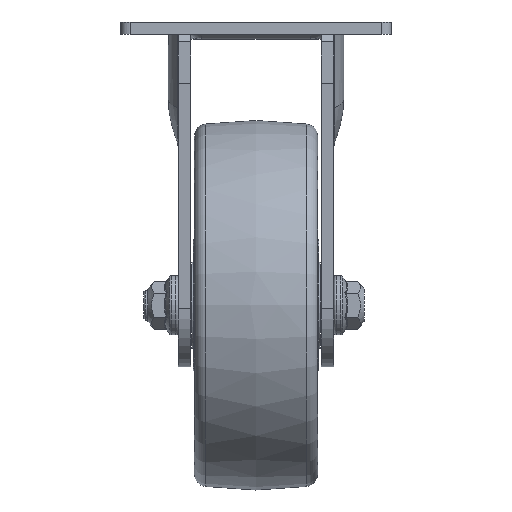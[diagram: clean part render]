
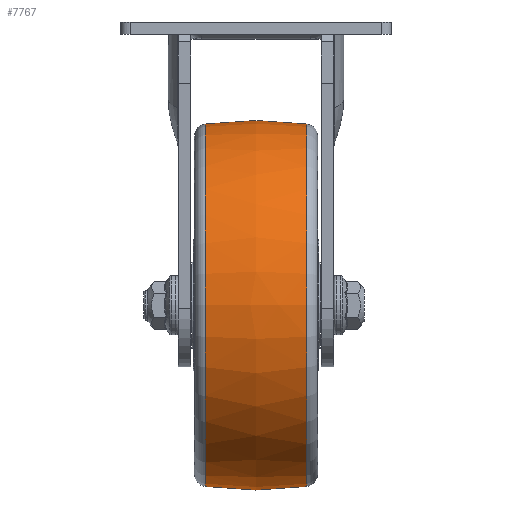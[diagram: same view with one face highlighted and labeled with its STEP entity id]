
A CAD part, left-side view. The second image highlights one B-rep face of the part: STEP entity #7767.
In plain terms, the highlighted free-form (B-spline) face has degree [2, 2] with [3, 9] control points.
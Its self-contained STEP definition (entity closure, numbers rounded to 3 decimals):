
#7695=CARTESIAN_POINT('',(-73.566,20.69,-112.5));
#7696=VERTEX_POINT('',#7695);
#7697=CARTESIAN_POINT('',(0.,20.69,-112.5));
#7698=DIRECTION('',(0.0,1.0,0.0));
#7699=DIRECTION('',(-1.0,0.0,0.0));
#7700=AXIS2_PLACEMENT_3D('',#7697,#7698,#7699);
#7701=CIRCLE('',#7700,73.566);
#7702=EDGE_CURVE('',#7696,#7696,#7701,.T.);
#7718=CARTESIAN_POINT('',(0.,20.69,-186.066));
#7719=CARTESIAN_POINT('',(0.,0.,-188.948));
#7720=CARTESIAN_POINT('',(0.,-20.69,-186.066));
#7721=CARTESIAN_POINT('',(-73.566,20.69,-186.066));
#7722=CARTESIAN_POINT('',(-76.448,0.,-188.948));
#7723=CARTESIAN_POINT('',(-73.566,-20.69,-186.066));
#7724=CARTESIAN_POINT('',(-73.566,20.69,-112.5));
#7725=CARTESIAN_POINT('',(-76.448,0.,-112.5));
#7726=CARTESIAN_POINT('',(-73.566,-20.69,-112.5));
#7727=CARTESIAN_POINT('',(-73.566,20.69,-38.934));
#7728=CARTESIAN_POINT('',(-76.448,0.,-36.052));
#7729=CARTESIAN_POINT('',(-73.566,-20.69,-38.934));
#7730=CARTESIAN_POINT('',(0.,20.69,-38.934));
#7731=CARTESIAN_POINT('',(0.,0.,-36.052));
#7732=CARTESIAN_POINT('',(0.,-20.69,-38.934));
#7733=CARTESIAN_POINT('',(73.566,20.69,-38.934));
#7734=CARTESIAN_POINT('',(76.448,0.,-36.052));
#7735=CARTESIAN_POINT('',(73.566,-20.69,-38.934));
#7736=CARTESIAN_POINT('',(73.566,20.69,-112.5));
#7737=CARTESIAN_POINT('',(76.448,0.,-112.5));
#7738=CARTESIAN_POINT('',(73.566,-20.69,-112.5));
#7739=CARTESIAN_POINT('',(73.566,20.69,-186.066));
#7740=CARTESIAN_POINT('',(76.448,0.,-188.948));
#7741=CARTESIAN_POINT('',(73.566,-20.69,-186.066));
#7742=CARTESIAN_POINT('',(0.,20.69,-186.066));
#7743=CARTESIAN_POINT('',(0.,0.,-188.948));
#7744=CARTESIAN_POINT('',(0.,-20.69,-186.066));
#7752=(BOUNDED_SURFACE()B_SPLINE_SURFACE(2,2,((#7718,#7721,#7724,#7727,#7730,#7733,#7736,#7739,#7742),(#7719,#7722,#7725,#7728,#7731,#7734,#7737,#7740,#7743),(#7720,#7723,#7726,#7729,#7732,#7735,#7738,#7741,#7744)),.UNSPECIFIED.,.F.,.T.,.U.)B_SPLINE_SURFACE_WITH_KNOTS((3,3),(3,2,2,2,3),(-0.138,0.138),(0.0,1.571,3.142,4.712,6.283),.UNSPECIFIED.)GEOMETRIC_REPRESENTATION_ITEM()RATIONAL_B_SPLINE_SURFACE(((1.0,0.707,1.0,0.707,1.0,0.707,1.0,0.707,1.0),(0.99,0.7,0.99,0.7,0.99,0.7,0.99,0.7,0.99),(1.0,0.707,1.0,0.707,1.0,0.707,1.0,0.707,1.0)))REPRESENTATION_ITEM('')SURFACE());
#7753=CARTESIAN_POINT('',(-73.566,-20.69,-112.5));
#7754=VERTEX_POINT('',#7753);
#7755=CARTESIAN_POINT('',(0.,-20.69,-112.5));
#7756=DIRECTION('',(0.0,1.0,0.0));
#7757=DIRECTION('',(-1.0,0.0,0.0));
#7758=AXIS2_PLACEMENT_3D('',#7755,#7756,#7757);
#7759=CIRCLE('',#7758,73.566);
#7760=EDGE_CURVE('',#7754,#7754,#7759,.T.);
#7761=ORIENTED_EDGE('',*,*,#7760,.T.);
#7762=EDGE_LOOP('',(#7761));
#7763=FACE_OUTER_BOUND('',#7762,.T.);
#7764=ORIENTED_EDGE('',*,*,#7702,.F.);
#7765=EDGE_LOOP('',(#7764));
#7766=FACE_BOUND('',#7765,.T.);
#7767=ADVANCED_FACE('',(#7763,#7766),#7752,.T.);
